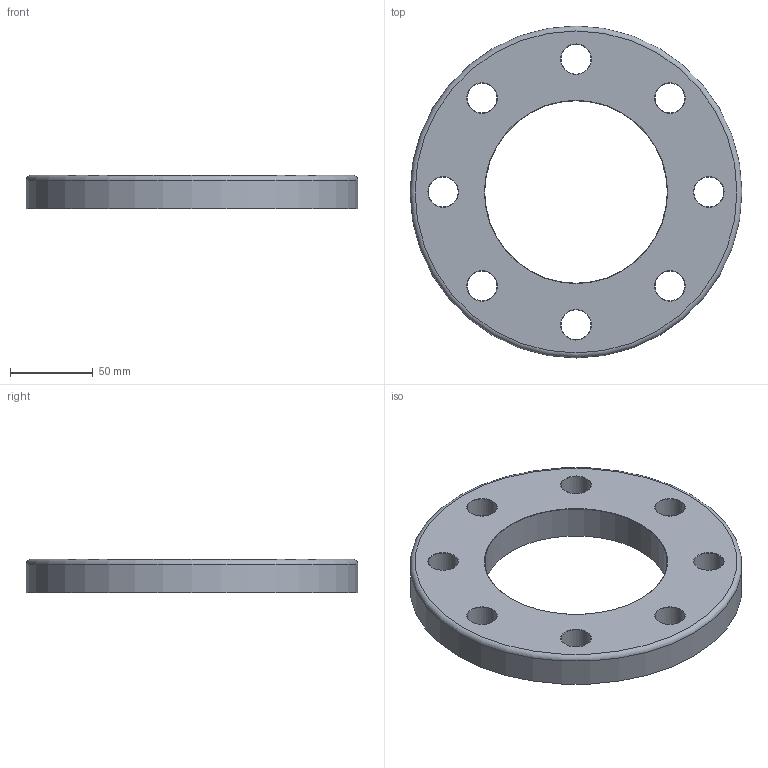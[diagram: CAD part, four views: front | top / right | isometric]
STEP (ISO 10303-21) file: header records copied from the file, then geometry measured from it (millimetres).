
FILE_DESCRIPTION(/* description */ ('PVC-U flangia libera BS 4504 DIN 8063 / PVC-U backing ring drilled to BS 4504 DIN 8063'),/* implementation_level */ '2;1');
FILE_NAME(/* name */ 'C:\Users\POLYPIPE\Desktop\DATASET INVENTOR\LIBRERIA EFFAST\RACCORDI 3DxWEB\RDR\3D_RDRFLD\3D_RDRFLD0900.stp',/* time_stamp */ '2018-01-19T14:22:43+01:00',/* author */ ('POLYPIPE'),/* organization */ ('Polypipe Italia s.r.l.'),/* preprocessor_version */ 'ST-DEVELOPER v16.1',/* originating_system */ 'Autodesk Inventor 2016',/* authorisation */ '');
FILE_SCHEMA (('CONFIG_CONTROL_DESIGN'));
Length unit declared in the file: millimetre
Products named in the file (1): 3D_RDRFLD
Bounding box: 200 x 200 x 20 mm (x, y, z)
Volume: 396324.9 mm3; surface area: 67398 mm2
Topology: 1 solids, 1 shells, 22 faces, 50 edges, 30 vertices
Faces by surface type: torus 10, cylinder 10, plane 2
Full cylindrical faces by diameter (mm): 18 x8, 110 x1, 200 x1
Entity records: 584 total; most frequent: DIRECTION 106, CARTESIAN_POINT 83, EDGE_LOOP 60, ORIENTED_EDGE 60, AXIS2_PLACEMENT_3D 53, FACE_BOUND 38, CIRCLE 30, VERTEX_POINT 30
